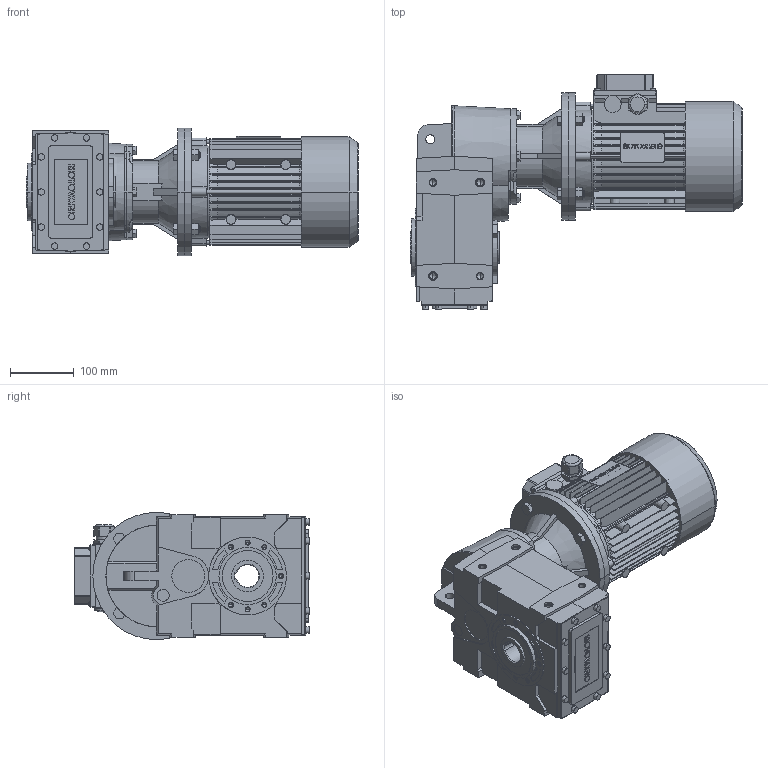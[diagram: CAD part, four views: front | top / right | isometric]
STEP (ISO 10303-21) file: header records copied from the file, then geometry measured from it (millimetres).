
FILE_DESCRIPTION( ( '' ), '1' );
FILE_NAME( '//expscmdclustefs.cadenas.external/client_exchange/iodir/jobs/output/wkb51874859_no0/STEP/S062C8_0090_B53500T090L1_2_03.stp', '2012-12-03T05:50:23', ( '' ), ( '' ), ' ', ' ', ' ' );
FILE_SCHEMA( ( 'CONFIG_CONTROL_DESIGN' ) );
Length unit declared in the file: millimetre
Products named in the file (11): 1; 2; 3; 4; 5; 6; 7; 8; 9; 10; 11
Bounding box: 521.5 x 368.6 x 200 mm (x, y, z)
Volume: 13648341.4 mm3; surface area: 988097.9 mm2
Topology: 11 solids, 11 shells, 2394 faces, 6452 edges, 4205 vertices
Faces by surface type: plane 1230, cylinder 934, cone 213, torus 11, sphere 6
Entity records: 76175 total; most frequent: CARTESIAN_POINT 14170, DIRECTION 13307, ORIENTED_EDGE 12840, EDGE_CURVE 6420, AXIS2_PLACEMENT_3D 4722, VERTEX_POINT 4205, LINE 3863, VECTOR 3863
